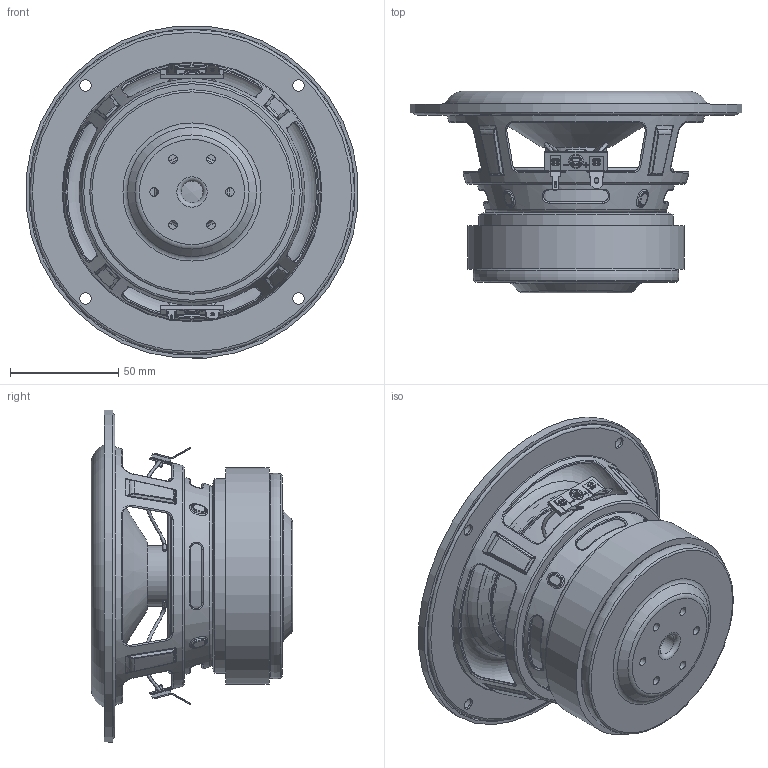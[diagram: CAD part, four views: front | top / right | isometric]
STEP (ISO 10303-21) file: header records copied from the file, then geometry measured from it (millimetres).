
FILE_DESCRIPTION(/* description */ (''),/* implementation_level */ '2;1');
FILE_NAME(/* name */ 'MX5-22.step',/* time_stamp */ '2025-12-02T10:48:06-05:00',/* author */ (''),/* organization */ (''),/* preprocessor_version */ 'ST-DEVELOPER v20.1',/* originating_system */ 'Autodesk Translation Framework v14.21.0.0',/* authorisation */ '');
FILE_SCHEMA (('AUTOMOTIVE_DESIGN { 1 0 10303 214 3 1 1 }'));
Products named in the file (2): 150A24U06A; ST-VE-7401
Assembly tree (1 placements, depth 2):
  150A24U06A
    ST-VE-7401
Bounding box: 153.41 x 93.18 x 153.41 mm (x, y, z)
Volume: 387788.3 mm3; surface area: 150505.6 mm2
Topology: 3 solids, 11 shells, 940 faces, 2441 edges, 1540 vertices
Faces by surface type: plane 323, bspline 224, cylinder 211, torus 117, cone 51, sphere 14
Full cylindrical faces by diameter (mm): 4 x6, 5 x8, 5.2 x8, 9 x4, 10 x1, 14 x1, 27.95 x1, 29.95 x1, 30.8 x1, 31.5 x1, 35 x1, 37 x1, 45 x1, 73.5 x2, 80 x1, 90 x2, 100 x2, 100.5 x1, 121 x1, 127 x1, 148 x1, 150 x1, 151 x1, 154 x1
Entity records: 63713 total; most frequent: CARTESIAN_POINT 41801, ORIENTED_EDGE 4864, DIRECTION 4097, EDGE_CURVE 2432, AXIS2_PLACEMENT_3D 1602, VERTEX_POINT 1546, EDGE_LOOP 1056, FACE_OUTER_BOUND 940
